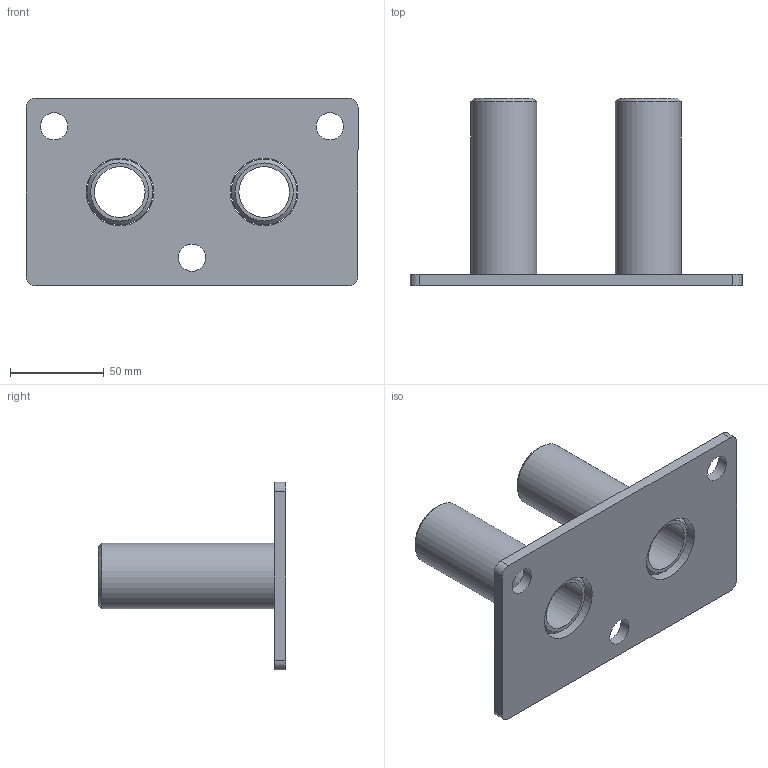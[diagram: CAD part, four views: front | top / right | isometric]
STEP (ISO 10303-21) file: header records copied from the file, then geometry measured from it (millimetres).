
FILE_DESCRIPTION((''),'2;1');
FILE_NAME('S:\Användarkataloger\AndreasA\Mina Inventor filer\Räcken\STEP\fäste_R4.stp','2010-09-07T13:58:09',('AndreasA'),(''),'Autodesk Inventor 2011','Autodesk Inventor 2011','');
FILE_SCHEMA(('AUTOMOTIVE_DESIGN { 1 0 10303 214 1 1 1 1 }'));
Length unit declared in the file: millimetre
Products named in the file (3): fäste_R4; bricka_r4; rör_fäste_r3_r4
Assembly tree (3 placements, depth 2):
  fäste_R4
    bricka_r4
    rör_fäste_r3_r4  x2
Bounding box: 177 x 100 x 100 mm (x, y, z)
Volume: 165612.4 mm3; surface area: 74553.6 mm2
Topology: 3 solids, 3 shells, 27 faces, 64 edges, 43 vertices
Faces by surface type: cylinder 13, plane 10, cone 4
Full cylindrical faces by diameter (mm): 14.5 x3, 27 x2, 35 x2, 36 x2
Entity records: 680 total; most frequent: DIRECTION 118, CARTESIAN_POINT 99, ORIENTED_EDGE 80, AXIS2_PLACEMENT_3D 51, EDGE_LOOP 42, EDGE_CURVE 40, VERTEX_POINT 32, CIRCLE 24
